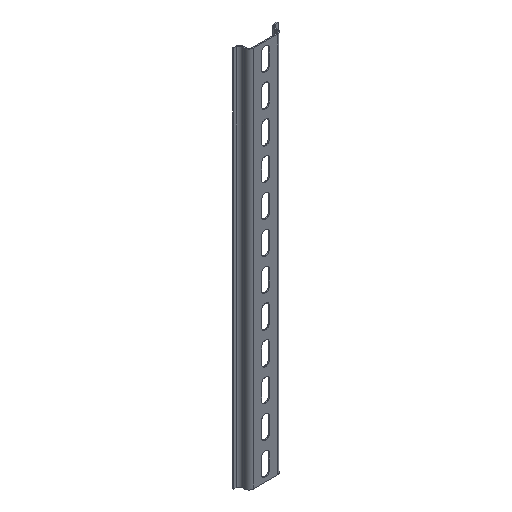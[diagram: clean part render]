
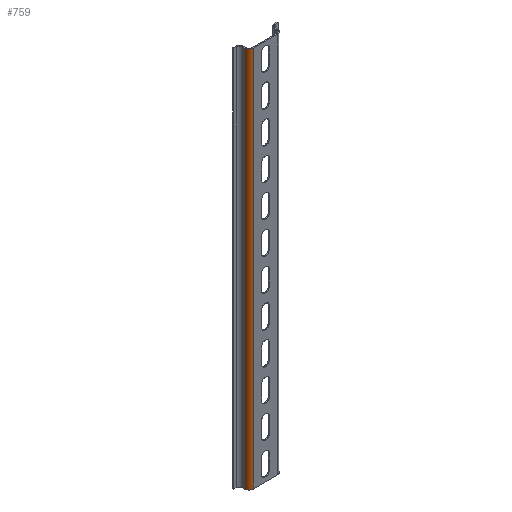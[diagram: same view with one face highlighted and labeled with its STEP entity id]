
A CAD part, isometric view. The second image highlights one B-rep face of the part: STEP entity #759.
In plain terms, the highlighted cylindrical face has radius 3.3 mm (diameter 6.6 mm), a partial arc.
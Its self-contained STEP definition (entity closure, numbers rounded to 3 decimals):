
#26 = AXIS2_PLACEMENT_3D ( 'NONE', #727, #2149, #2655 ) ;
#148 = CARTESIAN_POINT ( 'NONE',  ( -9.6, -0.8, 300. ) ) ;
#172 = DIRECTION ( 'NONE',  ( 0., 0., -1. ) ) ;
#223 = VECTOR ( 'NONE', #1555, 1000. ) ;
#233 = EDGE_CURVE ( 'NONE', #718, #639, #838, .T. ) ;
#639 = VERTEX_POINT ( 'NONE', #2477 ) ;
#718 = VERTEX_POINT ( 'NONE', #853 ) ;
#727 = CARTESIAN_POINT ( 'NONE',  ( -9.6, 2.5, 300. ) ) ;
#730 = VECTOR ( 'NONE', #1291, 1000. ) ;
#759 = ADVANCED_FACE ( 'NONE', ( #1746 ), #2692, .T. ) ;
#838 = LINE ( 'NONE', #148, #223 ) ;
#853 = CARTESIAN_POINT ( 'NONE',  ( -9.6, -0.8, 300. ) ) ;
#1001 = CIRCLE ( 'NONE', #26, 3.3 ) ;
#1291 = DIRECTION ( 'NONE',  ( 0., 0., -1. ) ) ;
#1555 = DIRECTION ( 'NONE',  ( 0., 0., -1. ) ) ;
#1556 = CARTESIAN_POINT ( 'NONE',  ( -12.9, 2.5, 300. ) ) ;
#1618 = DIRECTION ( 'NONE',  ( 1., 0., 0. ) ) ;
#1733 = CARTESIAN_POINT ( 'NONE',  ( -12.9, 2.5, 0. ) ) ;
#1739 = CARTESIAN_POINT ( 'NONE',  ( -12.9, 2.5, 300. ) ) ;
#1746 = FACE_OUTER_BOUND ( 'NONE', #2310, .T. ) ;
#1931 = ORIENTED_EDGE ( 'NONE', *, *, #233, .F. ) ;
#1960 = AXIS2_PLACEMENT_3D ( 'NONE', #2063, #2971, #2280 ) ;
#2031 = EDGE_CURVE ( 'NONE', #639, #2889, #2158, .T. ) ;
#2063 = CARTESIAN_POINT ( 'NONE',  ( -9.6, 2.5, 300. ) ) ;
#2105 = ORIENTED_EDGE ( 'NONE', *, *, #2031, .F. ) ;
#2146 = ORIENTED_EDGE ( 'NONE', *, *, #2741, .T. ) ;
#2149 = DIRECTION ( 'NONE',  ( 0., 0., -1. ) ) ;
#2158 = CIRCLE ( 'NONE', #2316, 3.3 ) ;
#2280 = DIRECTION ( 'NONE',  ( -1., 0., 0. ) ) ;
#2310 = EDGE_LOOP ( 'NONE', ( #2105, #1931, #2146, #2413 ) ) ;
#2316 = AXIS2_PLACEMENT_3D ( 'NONE', #2318, #172, #1618 ) ;
#2318 = CARTESIAN_POINT ( 'NONE',  ( -9.6, 2.5, 0. ) ) ;
#2413 = ORIENTED_EDGE ( 'NONE', *, *, #2484, .T. ) ;
#2477 = CARTESIAN_POINT ( 'NONE',  ( -9.6, -0.8, 0. ) ) ;
#2484 = EDGE_CURVE ( 'NONE', #2498, #2889, #2857, .T. ) ;
#2498 = VERTEX_POINT ( 'NONE', #1556 ) ;
#2655 = DIRECTION ( 'NONE',  ( 1., 0., 0. ) ) ;
#2692 = CYLINDRICAL_SURFACE ( 'NONE', #1960, 3.3 ) ;
#2741 = EDGE_CURVE ( 'NONE', #718, #2498, #1001, .T. ) ;
#2857 = LINE ( 'NONE', #1739, #730 ) ;
#2889 = VERTEX_POINT ( 'NONE', #1733 ) ;
#2971 = DIRECTION ( 'NONE',  ( 0., 0., -1. ) ) ;
